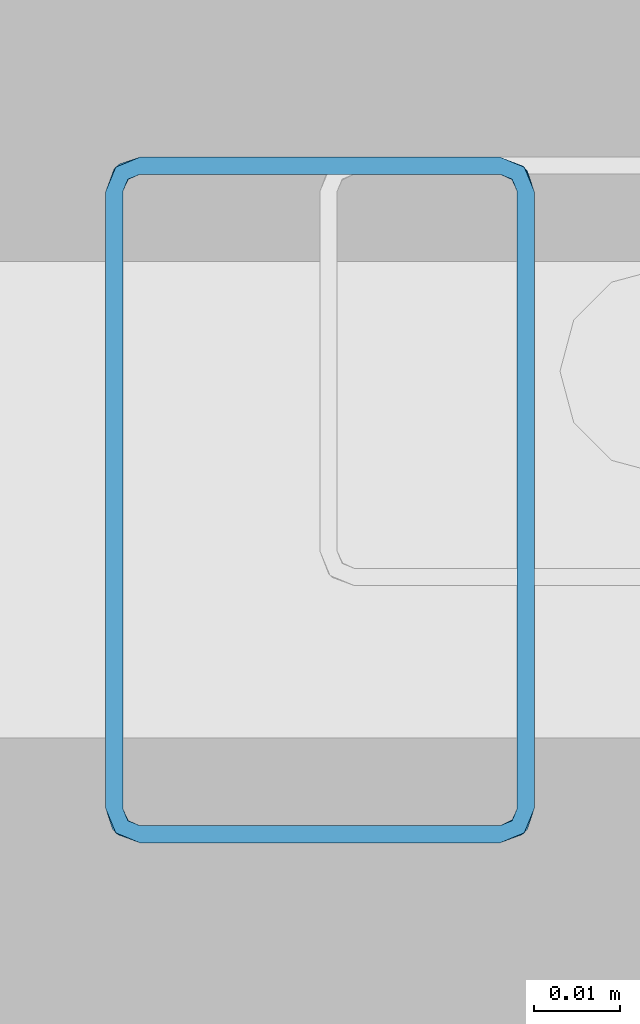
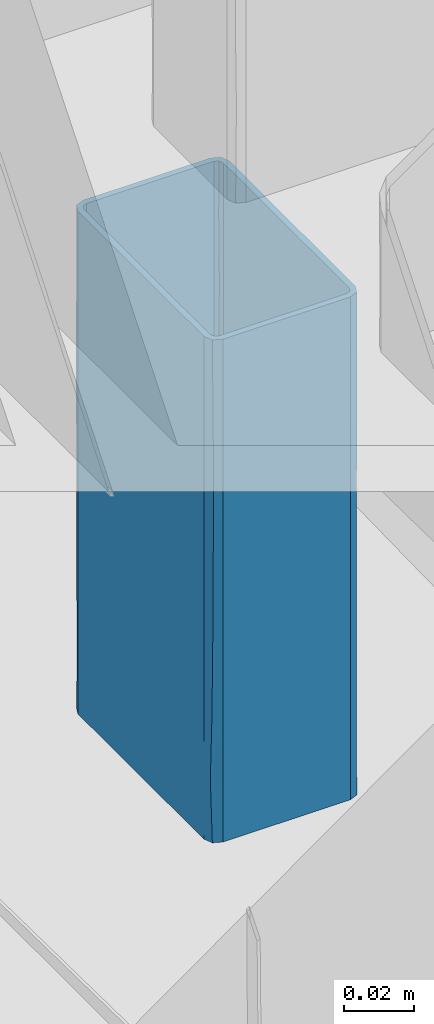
# One storey, part 145 of 186: 1 beam.
"""IFC4X3_ADD2 building model written with IfcOpenShell, lengths in millimetres."""

from ifc_helpers import new_model, si_unit, direction, frame, origin_with_axes, place, context, subcontext, project, spatial, polygons, element, save


model = new_model("IFC4X3_ADD2")

# Units and contexts
model_context = context("Model", 3, precision=1e-05, world=origin_with_axes(), true_north=direction((0.0, 1.0)))
body_context = subcontext(model_context, "Body", "Model", "MODEL_VIEW")
ifc_project = project(units=[si_unit("LENGTHUNIT", "METRE", prefix="MILLI"), si_unit("AREAUNIT", "SQUARE_METRE"), si_unit("VOLUMEUNIT", "CUBIC_METRE"), si_unit("PLANEANGLEUNIT", "RADIAN"), si_unit("TIMEUNIT", "SECOND"), si_unit("MASSUNIT", "GRAM")], contexts=[model_context])

# Site, building, storey
site_placement = place(None, origin_with_axes())
site = spatial("IfcSite", under=ifc_project, at=site_placement, Name="Site", CompositionType="ELEMENT")
building_placement = place(site_placement, origin_with_axes())
building = spatial("IfcBuilding", under=site, at=building_placement, Name="IFC Building Story")
storey_placement = place(building_placement, frame((0.0, 0.0, 4370.0), z_axis=(0.0, 0.0, 1.0), x_axis=(1.0, 0.0, 0.0)))
storey = spatial("IfcBuildingStorey", under=building, at=storey_placement, Name="ETAGE 10 (1)", Elevation=4370.0)

# Beam
beam_placement = place(storey_placement, frame((0.0, 0.0, -4370.0), z_axis=(0.0, 0.0, 1.0), x_axis=(1.0, 0.0, 0.0)))
element("IfcBeam", 1, at=beam_placement, inside=storey, Name="PS9", ObjectType="K50*80*2", context=body_context, shape_type="Tessellation", body=[
    polygons([(40033.18902040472, -14301.01914260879, 7528.810290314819), (40031.18902040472, -14301.01914260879, 7528.810290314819), (40033.77480684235, -14302.43335617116, 7528.810290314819), (40031.18902040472, -14229.01914260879, 7528.810290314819), (40033.18902040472, -14229.01914260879, 7528.810290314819), (40033.77480684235, -14227.60492904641, 7528.810290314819), (40032.36059327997, -14226.19071548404, 7528.810290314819), (40035.18902040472, -14225.01914260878, 7528.810290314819), (40035.18902040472, -14227.01914260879, 7528.810290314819), (40077.18902040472, -14227.01914260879, 7528.810290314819), (40077.18902040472, -14225.01914260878, 7528.810290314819), (40078.60323396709, -14227.60492904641, 7528.810290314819), (40080.01744752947, -14226.19071548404, 7528.810290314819), (40081.18902040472, -14229.01914260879, 7528.810290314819), (40079.18902040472, -14229.01914260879, 7528.810290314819), (40079.18902040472, -14301.01914260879, 7528.810290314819), (40081.18902040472, -14301.01914260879, 7528.810290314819), (40078.60323396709, -14302.43335617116, 7528.810290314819), (40080.01744752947, -14303.84756973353, 7528.810290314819), (40077.18902040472, -14305.01914260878, 7528.810290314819), (40077.18902040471, -14303.01914260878, 7528.810290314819), (40035.18902040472, -14305.01914260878, 7528.810290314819), (40035.18902040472, -14303.01914260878, 7528.810290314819), (40032.36059327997, -14303.84756973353, 7528.810290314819), (40079.18902040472, -14301.01914260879, 7353.41029031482), (40081.18902040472, -14301.01914260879, 7353.41029031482), (40078.60323396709, -14302.43335617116, 7353.41029031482), (40081.18902040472, -14229.01914260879, 7353.41029031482), (40079.18902040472, -14229.01914260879, 7353.41029031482), (40078.60323396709, -14227.60492904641, 7353.41029031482), (40080.01744752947, -14226.19071548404, 7353.41029031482), (40077.18902040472, -14225.01914260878, 7353.41029031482), (40077.18902040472, -14227.01914260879, 7353.41029031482), (40035.18902040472, -14227.01914260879, 7353.41029031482), (40035.18902040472, -14225.01914260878, 7353.41029031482), (40033.77480684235, -14227.60492904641, 7353.41029031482), (40032.36059327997, -14226.19071548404, 7353.41029031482), (40031.18902040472, -14229.01914260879, 7353.41029031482), (40033.18902040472, -14229.01914260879, 7353.41029031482), (40033.18902040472, -14301.01914260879, 7353.41029031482), (40031.18902040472, -14301.01914260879, 7353.41029031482), (40033.77480684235, -14302.43335617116, 7353.41029031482), (40032.36059327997, -14303.84756973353, 7353.41029031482), (40035.18902040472, -14305.01914260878, 7353.41029031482), (40035.18902040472, -14303.01914260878, 7353.41029031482), (40077.18902040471, -14305.01914260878, 7353.41029031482), (40077.18902040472, -14303.01914260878, 7353.41029031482), (40080.01744752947, -14303.84756973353, 7353.41029031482), (40031.18902040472, -14229.01914260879, 7511.35176800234), (40031.18902040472, -14229.01914260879, 7484.96029031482), (40031.18902040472, -14229.01914260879, 7463.03529031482), (40031.18902040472, -14229.01914260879, 7441.110290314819), (40031.18902040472, -14229.01914260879, 7419.185290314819), (40031.18902040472, -14229.01914260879, 7397.26029031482), (40031.18902040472, -14229.01914260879, 7370.868812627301), (40031.18902040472, -14301.01914260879, 7388.327335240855), (40031.18902040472, -14301.01914260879, 7406.19324419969), (40031.18902040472, -14301.01914260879, 7432.584721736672), (40031.18902040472, -14301.01914260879, 7458.976199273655), (40031.18902040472, -14301.01914260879, 7476.434721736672), (40031.18902040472, -14301.01914260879, 7493.89324419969), (40032.27330903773, -14303.75750475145, 7397.260292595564), (40035.18902040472, -14305.01914260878, 7419.185290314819), (40032.49036666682, -14303.97164459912, 7430.147792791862), (40035.18902040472, -14305.01914260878, 7397.26029031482), (40031.96517637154, -14303.38701710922, 7375.256384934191), (40035.18902040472, -14305.01914260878, 7370.868813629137), (40032.5391279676, -14304.01548539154, 7498.156029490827), (40035.18902040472, -14305.01914260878, 7441.110290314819), (40035.18902040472, -14305.01914260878, 7511.351767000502), (40032.55305022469, -14304.02774048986, 7454.738124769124), (40032.60615070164, -14304.07344843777, 7476.448793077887), (40035.18902040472, -14305.01914260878, 7484.96029031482), (40035.18902040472, -14305.01914260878, 7463.03529031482), (40077.18902040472, -14305.01914260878, 7370.86881305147), (40077.18902040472, -14305.01914260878, 7397.26029031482), (40077.18902040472, -14305.01914260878, 7419.185290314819), (40077.18902040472, -14305.01914260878, 7441.110290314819), (40077.18902040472, -14305.01914260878, 7463.03529031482), (40077.18902040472, -14305.01914260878, 7484.96029031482), (40077.18902040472, -14305.01914260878, 7511.35176757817), (40081.18902040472, -14301.01914260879, 7388.327335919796), (40079.83891276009, -14304.01548546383, 7384.064555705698), (40080.10473176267, -14303.75750476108, 7484.960291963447), (40080.41286439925, -14303.38701716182, 7506.964197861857), (40079.88767416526, -14303.97164457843, 7452.07279271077), (40081.18902040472, -14301.01914260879, 7476.027335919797), (40081.18902040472, -14301.01914260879, 7493.893244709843), (40079.8249906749, -14304.02774041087, 7427.482462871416), (40081.18902040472, -14301.01914260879, 7423.244381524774), (40081.18902040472, -14301.01914260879, 7449.635858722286), (40081.18902040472, -14301.01914260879, 7405.785858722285), (40079.77189039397, -14304.07344819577, 7405.771793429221), (40081.18902040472, -14229.01914260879, 7388.327335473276), (40081.18902040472, -14229.01914260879, 7414.718812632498), (40081.18902040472, -14229.01914260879, 7441.110290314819), (40081.18902040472, -14229.01914260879, 7463.03529031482), (40081.18902040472, -14229.01914260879, 7484.96029031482), (40081.18902040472, -14229.01914260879, 7511.351767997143), (40080.18536316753, -14226.36925014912, 7498.156030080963), (40080.04053304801, -14226.21399098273, 7471.566908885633), (40077.18902040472, -14225.01914260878, 7493.893244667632), (40080.01744765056, -14226.19071560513, 7397.260294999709), (40080.40257989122, -14226.63732913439, 7375.335293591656), (40077.18902040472, -14225.01914260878, 7388.327335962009), (40077.18902040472, -14225.01914260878, 7406.19324394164), (40079.84319494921, -14226.02659227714, 7445.780463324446), (40079.9358619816, -14226.11141818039, 7421.625940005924), (40077.18902040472, -14225.01914260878, 7432.584720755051), (40077.18902040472, -14225.01914260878, 7458.976197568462), (40035.18902040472, -14225.01914260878, 7388.327335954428), (40035.18902040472, -14225.01914260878, 7406.193244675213), (40035.18902040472, -14225.01914260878, 7432.584721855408), (40035.18902040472, -14225.01914260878, 7458.976199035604), (40035.18902040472, -14225.01914260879, 7476.434721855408), (40035.18902040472, -14225.01914260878, 7493.893244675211), (40032.45065829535, -14226.10343121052, 7397.260293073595), (40032.23651842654, -14226.32048885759, 7430.147793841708), (40032.82114591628, -14225.79529856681, 7375.256385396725), (40032.19267763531, -14226.36925015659, 7498.156029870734), (40032.18042254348, -14226.38317240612, 7454.738125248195), (40032.13471460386, -14226.43627287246, 7476.448793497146), (40035.18902040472, -14227.01914260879, 7479.430131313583), (40033.77480688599, -14227.60492900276, 7485.602651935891), (40033.77480687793, -14227.60492901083, 7472.397284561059), (40033.77000533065, -14227.60974691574, 7384.994628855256), (40033.6935629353, -14227.69113396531, 7371.927851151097), (40035.18902040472, -14227.01914260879, 7372.570210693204), (40033.18902040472, -14229.01914260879, 7419.185290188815), (40033.18902040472, -14229.01914260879, 7408.222790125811), (40033.72649008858, -14227.65495601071, 7413.704042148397), (40033.73642430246, -14227.64438278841, 7448.567533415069), (40033.18902040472, -14229.01914260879, 7441.110290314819), (40033.88525638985, -14227.50250178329, 7437.383846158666), (40035.18902040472, -14227.01914260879, 7454.740051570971), (40033.84806014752, -14227.53528763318, 7460.412453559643), (40035.18902040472, -14227.01914260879, 7391.730131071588), (40033.18902040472, -14229.01914260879, 7365.755329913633), (40033.18902040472, -14229.01914260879, 7516.465250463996), (40033.18902040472, -14229.01914260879, 7491.77517126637), (40033.18902040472, -14229.01914260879, 7479.430131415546), (40035.18902040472, -14227.01914260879, 7491.775170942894), (40033.82280305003, -14227.5585091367, 7497.947691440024), (40033.83051627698, -14227.55133249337, 7396.71874799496), (40033.18902040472, -14229.01914260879, 7397.26029031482), (40035.18902040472, -14227.01914260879, 7516.465250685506), (40033.77480686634, -14227.60492902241, 7510.292730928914), (40035.18902040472, -14227.01914260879, 7504.120210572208), (40033.18902040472, -14229.01914260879, 7504.120210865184), (40033.18902040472, -14229.01914260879, 7378.100369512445), (40033.18902040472, -14229.01914260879, 7460.270210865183), (40035.18902040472, -14227.01914260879, 7467.085091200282), (40033.69769861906, -14227.68649136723, 7426.261011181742), (40035.18902040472, -14227.01914260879, 7410.890051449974), (40035.18902040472, -14227.01914260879, 7430.049971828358), (40033.18902040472, -14229.01914260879, 7430.147790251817), (40035.18902040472, -14227.01914260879, 7442.395011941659), (40077.18902040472, -14227.01914260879, 7365.755330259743), (40077.18902040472, -14227.01914260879, 7378.100369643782), (40077.18902040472, -14227.01914260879, 7397.260290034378), (40077.18902040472, -14227.01914260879, 7408.222789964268), (40077.18902040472, -14227.01914260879, 7419.185289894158), (40077.18902040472, -14227.01914260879, 7430.147789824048), (40077.18902040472, -14227.01914260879, 7441.110290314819), (40077.18902040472, -14227.01914260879, 7452.072790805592), (40077.18902040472, -14227.01914260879, 7463.035290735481), (40077.18902040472, -14227.01914260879, 7473.997790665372), (40077.18902040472, -14227.01914260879, 7484.960290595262), (40077.18902040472, -14227.01914260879, 7504.120210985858), (40077.18902040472, -14227.01914260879, 7516.465250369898), (40078.70566120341, -14227.71537856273, 7444.836737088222), (40078.56378019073, -14227.56654647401, 7433.653049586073), (40079.18902040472, -14229.01914260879, 7439.825568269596), (40078.59841610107, -14227.60012753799, 7497.225954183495), (40078.6568304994, -14227.66063845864, 7485.501835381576), (40079.18902040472, -14229.01914260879, 7490.490449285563), (40078.5170290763, -14227.52368516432, 7510.292731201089), (40079.18902040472, -14229.01914260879, 7509.650370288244), (40078.60323396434, -14227.60492904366, 7385.133218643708), (40078.60323395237, -14227.60492903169, 7371.927850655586), (40079.18902040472, -14229.01914260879, 7378.100369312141), (40079.18902040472, -14229.01914260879, 7365.755330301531), (40079.18902040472, -14229.01914260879, 7427.480529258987), (40078.66431878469, -14227.66877425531, 7421.638538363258), (40078.55320697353, -14227.55661226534, 7468.5165412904), (40078.52167162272, -14227.52782080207, 7455.95957216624), (40079.18902040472, -14229.01914260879, 7390.445409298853), (40078.53490426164, -14227.53975197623, 7402.741541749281), (40079.18902040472, -14229.01914260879, 7452.170608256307), (40079.18902040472, -14229.01914260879, 7471.330528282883), (40079.18902040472, -14229.01914260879, 7402.790449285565), (40079.18902040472, -14229.01914260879, 7415.135489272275), (40079.18902040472, -14301.01914260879, 7365.755329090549), (40079.18902040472, -14301.01914260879, 7375.335290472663), (40079.18902040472, -14301.01914260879, 7386.297790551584), (40079.18902040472, -14301.01914260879, 7397.260290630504), (40079.18902040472, -14301.01914260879, 7408.222790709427), (40079.18902040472, -14301.01914260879, 7419.185290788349), (40079.18902040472, -14301.01914260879, 7430.147790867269), (40079.18902040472, -14301.01914260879, 7441.110290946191), (40079.18902040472, -14301.01914260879, 7452.072791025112), (40079.18902040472, -14301.01914260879, 7463.035291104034), (40079.18902040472, -14301.01914260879, 7473.997791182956), (40079.18902040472, -14301.01914260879, 7484.960291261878), (40079.18902040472, -14301.01914260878, 7504.120211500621), (40079.18902040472, -14301.01914260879, 7516.465250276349), (40078.69729622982, -14302.33257476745, 7403.991095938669), (40078.66464788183, -14302.36915133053, 7391.779041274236), (40078.61357853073, -14302.42293538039, 7446.851607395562), (40078.51381434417, -14302.51744865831, 7459.400227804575), (40077.18902040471, -14303.01914260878, 7378.100369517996), (40078.7692654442, -14302.24504049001, 7381.118364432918), (40078.60323397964, -14302.43335615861, 7370.545310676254), (40078.68447785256, -14302.34715127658, 7510.292731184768), (40077.18902040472, -14303.01914260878, 7509.650369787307), (40077.18902040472, -14303.01914260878, 7390.445409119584), (40077.18902040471, -14303.01914260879, 7402.790448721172), (40078.52662301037, -14302.50602500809, 7421.308009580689), (40077.18902040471, -14303.01914260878, 7365.755329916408), (40078.60803548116, -14302.42853829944, 7497.225954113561), (40078.59808333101, -14302.43848811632, 7434.380258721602), (40077.18902040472, -14303.01914260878, 7427.480527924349), (40077.18902040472, -14303.01914260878, 7415.135488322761), (40077.18902040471, -14303.01914260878, 7439.825568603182), (40077.18902040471, -14303.01914260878, 7452.17060820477), (40077.18902040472, -14303.01914260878, 7490.490449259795), (40078.52015993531, -14302.51181388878, 7479.47904107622), (40077.18902040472, -14303.01914260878, 7471.330528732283), (40035.18902040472, -14303.01914260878, 7365.755330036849), (40035.18902040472, -14303.01914260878, 7378.100369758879), (40035.18902040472, -14303.01914260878, 7390.445409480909), (40035.18902040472, -14303.01914260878, 7402.790449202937), (40035.18902040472, -14303.01914260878, 7415.135488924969), (40035.18902040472, -14303.01914260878, 7427.480528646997), (40035.18902040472, -14303.01914260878, 7439.825568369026), (40035.18902040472, -14303.01914260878, 7452.170608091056), (40035.18902040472, -14303.01914260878, 7471.330528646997), (40035.18902040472, -14303.01914260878, 7490.490449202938), (40035.18902040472, -14303.01914260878, 7509.650369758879), (40033.77000531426, -14302.42853828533, 7497.225954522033), (40033.69356294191, -14302.34715125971, 7510.292731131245), (40033.8480600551, -14302.50299750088, 7421.808131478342), (40033.73642420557, -14302.39390232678, 7433.653050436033), (40033.77480688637, -14302.4333562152, 7371.927853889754), (40033.77480690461, -14302.43335623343, 7385.133219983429), (40033.18902040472, -14301.01914260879, 7378.100370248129), (40033.18902040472, -14301.01914260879, 7463.035290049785), (40033.18902040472, -14301.01914260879, 7473.997790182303), (40033.72649001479, -14302.38332912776, 7468.516541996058), (40033.18902040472, -14301.01914260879, 7516.465250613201), (40033.18902040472, -14301.01914260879, 7365.755330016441), (40033.8852562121, -14302.53578328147, 7444.83673813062), (40033.83051621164, -14302.48695266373, 7485.501836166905), (40033.18902040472, -14301.01914260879, 7484.96029031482), (40033.18902040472, -14301.01914260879, 7390.445409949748), (40033.7130589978, -14302.36878623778, 7397.096792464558), (40033.18902040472, -14301.01914260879, 7504.120210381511), (40033.76931803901, -14302.42784598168, 7409.063177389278), (40033.69769857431, -14302.35179380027, 7455.959573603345), (40033.18902040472, -14301.01914260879, 7452.072790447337), (40033.18902040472, -14301.01914260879, 7441.110290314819), (40033.18902040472, -14301.01914260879, 7421.950369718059), (40033.18902040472, -14301.01914260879, 7402.790449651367)], [[[1, 2, 3]], [[2, 1, 4]], [[5, 4, 1]], [[6, 4, 5]], [[7, 4, 6]], [[6, 8, 7]], [[6, 9, 8]], [[8, 9, 10]], [[10, 11, 8]], [[10, 12, 11]], [[11, 12, 13]], [[14, 13, 12]], [[14, 12, 15]], [[14, 15, 16]], [[16, 17, 14]], [[18, 17, 16]], [[17, 18, 19]], [[18, 20, 19]], [[21, 20, 18]], [[20, 21, 22]], [[23, 22, 21]], [[3, 22, 23]], [[22, 3, 24]], [[3, 2, 24]], [[25, 26, 27]], [[26, 25, 28]], [[29, 28, 25]], [[30, 28, 29]], [[31, 28, 30]], [[30, 32, 31]], [[30, 33, 32]], [[32, 33, 34]], [[34, 35, 32]], [[34, 36, 35]], [[35, 36, 37]], [[38, 37, 36]], [[38, 36, 39]], [[38, 39, 40]], [[40, 41, 38]], [[42, 41, 40]], [[41, 42, 43]], [[42, 44, 43]], [[45, 44, 42]], [[44, 45, 46]], [[47, 46, 45]], [[27, 46, 47]], [[46, 27, 48]], [[27, 26, 48]], [[55, 38, 41]], [[56, 57, 54]], [[54, 55, 41]], [[54, 41, 56]], [[57, 53, 54]], [[57, 58, 52]], [[57, 52, 53]], [[58, 59, 51]], [[58, 51, 52]], [[59, 60, 50]], [[59, 50, 51]], [[61, 2, 49]], [[61, 49, 50]], [[50, 60, 61]], [[2, 4, 49]], [[62, 63, 64]], [[65, 66, 67]], [[2, 61, 68]], [[64, 63, 69]], [[70, 22, 24]], [[43, 44, 67]], [[62, 56, 66]], [[71, 59, 58]], [[57, 56, 62]], [[62, 66, 65]], [[24, 2, 68]], [[60, 59, 72, 61]], [[41, 43, 66]], [[58, 64, 71]], [[64, 57, 62]], [[73, 70, 68]], [[62, 65, 63]], [[64, 69, 71]], [[64, 58, 57]], [[71, 69, 74]], [[41, 66, 56]], [[67, 66, 43]], [[24, 68, 70]], [[71, 72, 59]], [[68, 72, 73]], [[72, 68, 61]], [[72, 74, 73]], [[74, 72, 71]], [[67, 44, 46]], [[67, 46, 75]], [[75, 76, 65]], [[75, 65, 67]], [[76, 77, 63]], [[76, 63, 65]], [[77, 78, 69]], [[77, 69, 63]], [[78, 79, 74]], [[78, 74, 69]], [[79, 80, 73]], [[79, 73, 74]], [[80, 81, 70]], [[80, 70, 73]], [[81, 20, 22]], [[81, 22, 70]], [[26, 82, 83]], [[84, 85, 80]], [[86, 84, 79]], [[87, 88, 84]], [[86, 79, 78]], [[80, 85, 81]], [[84, 88, 85]], [[48, 26, 83]], [[84, 80, 79]], [[89, 90, 91]], [[92, 90, 93, 82]], [[17, 19, 85]], [[91, 86, 89]], [[75, 83, 76]], [[86, 87, 84]], [[75, 46, 48]], [[19, 20, 81]], [[86, 78, 89]], [[86, 91, 87]], [[89, 78, 77]], [[17, 85, 88]], [[81, 85, 19]], [[48, 83, 75]], [[89, 93, 90]], [[83, 93, 76]], [[93, 83, 82]], [[93, 77, 76]], [[77, 93, 89]], [[82, 26, 28]], [[82, 28, 94]], [[94, 95, 92]], [[94, 92, 82]], [[95, 90, 92]], [[95, 96, 91]], [[95, 91, 90]], [[97, 98, 87]], [[87, 91, 96]], [[87, 96, 97]], [[98, 88, 87]], [[99, 14, 17]], [[17, 88, 98]], [[17, 98, 99]], [[99, 98, 100]], [[101, 102, 100]], [[103, 94, 104]], [[11, 13, 100]], [[31, 104, 28]], [[103, 95, 94]], [[105, 106, 103]], [[97, 107, 101]], [[13, 99, 100]], [[32, 105, 104]], [[108, 107, 96]], [[103, 104, 105]], [[108, 106, 109]], [[107, 108, 109]], [[110, 107, 109]], [[13, 14, 99]], [[28, 104, 94]], [[104, 31, 32]], [[101, 107, 110]], [[108, 96, 95]], [[102, 101, 110]], [[97, 96, 107]], [[95, 103, 108]], [[106, 108, 103]], [[101, 100, 98]], [[100, 102, 11]], [[101, 98, 97]], [[105, 32, 35]], [[105, 35, 111]], [[111, 112, 106]], [[111, 106, 105]], [[112, 113, 109]], [[112, 109, 106]], [[113, 114, 110]], [[113, 110, 109]], [[115, 116, 102]], [[102, 110, 114]], [[102, 114, 115]], [[116, 8, 11]], [[116, 11, 102]], [[117, 53, 118]], [[54, 119, 55]], [[8, 116, 120]], [[118, 53, 52]], [[49, 4, 7]], [[37, 38, 55]], [[117, 111, 119]], [[121, 114, 113]], [[112, 111, 117]], [[117, 119, 54]], [[7, 8, 120]], [[115, 114, 122, 116]], [[35, 37, 119]], [[113, 118, 121]], [[118, 112, 117]], [[50, 49, 120]], [[117, 54, 53]], [[118, 52, 121]], [[118, 113, 112]], [[121, 52, 51]], [[35, 119, 111]], [[55, 119, 37]], [[7, 120, 49]], [[121, 122, 114]], [[120, 122, 50]], [[122, 120, 116]], [[122, 51, 50]], [[51, 122, 121]], [[123, 124, 125]], [[126, 127, 128]], [[129, 130, 131]], [[132, 133, 134]], [[132, 135, 136]], [[126, 128, 137]], [[138, 39, 36]], [[6, 5, 139]], [[36, 127, 138]], [[125, 124, 140, 141]], [[142, 143, 124]], [[144, 145, 126]], [[142, 124, 123]], [[146, 147, 148]], [[140, 143, 149]], [[127, 36, 34]], [[138, 127, 150]], [[146, 9, 6]], [[147, 6, 139]], [[6, 147, 146]], [[143, 147, 149]], [[143, 142, 148]], [[149, 147, 139]], [[132, 151, 133]], [[152, 123, 125]], [[125, 141, 151]], [[126, 150, 127]], [[34, 128, 127]], [[126, 145, 150]], [[153, 131, 154]], [[124, 143, 140]], [[147, 143, 148]], [[130, 145, 144]], [[135, 152, 136]], [[144, 126, 137]], [[155, 153, 154]], [[144, 137, 154]], [[153, 129, 131]], [[144, 131, 130]], [[154, 131, 144]], [[156, 129, 153]], [[132, 134, 157]], [[135, 132, 157]], [[155, 134, 153]], [[151, 132, 136]], [[136, 125, 151]], [[125, 136, 152]], [[157, 134, 155]], [[133, 156, 134]], [[156, 153, 134]], [[158, 159, 128]], [[128, 34, 33]], [[128, 33, 158]], [[159, 160, 137]], [[159, 137, 128]], [[160, 161, 154]], [[160, 154, 137]], [[162, 163, 155]], [[162, 155, 154]], [[154, 161, 162]], [[163, 164, 157]], [[163, 157, 155]], [[164, 165, 135]], [[164, 135, 157]], [[165, 166, 152]], [[165, 152, 135]], [[166, 167, 123]], [[166, 123, 152]], [[167, 168, 142]], [[167, 142, 123]], [[168, 169, 148]], [[168, 148, 142]], [[169, 170, 146]], [[169, 146, 148]], [[170, 10, 9]], [[170, 9, 146]], [[171, 172, 173]], [[174, 175, 176]], [[158, 33, 30]], [[12, 10, 170]], [[177, 15, 12]], [[178, 15, 177]], [[179, 180, 181]], [[182, 180, 30]], [[183, 172, 184]], [[169, 174, 177]], [[185, 166, 186]], [[169, 177, 170]], [[179, 187, 188]], [[29, 182, 30]], [[179, 181, 187]], [[159, 180, 179]], [[182, 181, 180]], [[177, 174, 178]], [[30, 180, 158]], [[180, 159, 158]], [[179, 160, 159]], [[179, 188, 160]], [[173, 189, 171]], [[170, 177, 12]], [[176, 178, 174]], [[168, 175, 174]], [[174, 169, 168]], [[175, 190, 176]], [[185, 186, 190]], [[190, 175, 185]], [[168, 167, 175]], [[167, 185, 175]], [[185, 167, 166]], [[189, 190, 186]], [[172, 183, 173]], [[186, 165, 171]], [[161, 160, 188]], [[171, 165, 164]], [[172, 163, 184]], [[191, 192, 188, 187]], [[162, 161, 184, 163]], [[184, 188, 192]], [[161, 188, 184]], [[192, 183, 184]], [[172, 171, 164]], [[186, 166, 165]], [[186, 171, 189]], [[172, 164, 163]], [[182, 29, 25]], [[182, 25, 193]], [[193, 194, 181]], [[193, 181, 182]], [[194, 195, 187]], [[194, 187, 181]], [[196, 197, 191]], [[191, 187, 195]], [[191, 195, 196]], [[197, 198, 192]], [[197, 192, 191]], [[198, 199, 183]], [[198, 183, 192]], [[199, 200, 173]], [[199, 173, 183]], [[200, 201, 189]], [[200, 189, 173]], [[202, 203, 190]], [[190, 189, 201]], [[190, 201, 202]], [[203, 204, 176]], [[203, 176, 190]], [[204, 205, 178]], [[204, 178, 176]], [[206, 16, 15]], [[206, 15, 178]], [[178, 205, 206]], [[207, 196, 208]], [[201, 209, 210]], [[211, 212, 213]], [[214, 21, 18]], [[215, 21, 214]], [[216, 217, 208]], [[207, 218, 197]], [[27, 219, 213]], [[205, 220, 214]], [[200, 221, 209]], [[205, 214, 206]], [[212, 195, 194]], [[193, 27, 213, 194]], [[193, 25, 27]], [[18, 16, 206]], [[214, 220, 215]], [[27, 47, 219]], [[213, 219, 211]], [[195, 212, 208]], [[195, 208, 196]], [[217, 207, 208]], [[211, 216, 212]], [[222, 221, 218]], [[198, 197, 218, 199]], [[223, 218, 207]], [[222, 218, 223]], [[207, 217, 223]], [[221, 199, 218]], [[224, 225, 209]], [[221, 224, 209]], [[206, 214, 18]], [[226, 215, 220]], [[226, 220, 227]], [[220, 205, 204]], [[202, 201, 210, 203]], [[203, 227, 204]], [[221, 222, 224]], [[227, 210, 228]], [[210, 209, 225]], [[210, 225, 228]], [[210, 227, 203]], [[204, 227, 220]], [[227, 228, 226]], [[216, 208, 212]], [[213, 212, 194]], [[197, 196, 207]], [[201, 200, 209]], [[221, 200, 199]], [[219, 47, 45]], [[219, 45, 229]], [[229, 230, 211]], [[229, 211, 219]], [[230, 231, 216]], [[230, 216, 211]], [[231, 232, 217]], [[231, 217, 216]], [[232, 233, 223]], [[232, 223, 217]], [[233, 234, 222]], [[233, 222, 223]], [[234, 235, 224]], [[234, 224, 222]], [[235, 236, 225]], [[235, 225, 224]], [[236, 237, 228]], [[236, 228, 225]], [[237, 238, 226]], [[237, 226, 228]], [[238, 239, 215]], [[238, 215, 226]], [[239, 23, 21]], [[239, 21, 215]], [[240, 241, 239]], [[242, 243, 234]], [[230, 229, 244]], [[245, 244, 246]], [[234, 243, 235]], [[247, 248, 249]], [[250, 1, 3]], [[40, 251, 42]], [[239, 238, 240]], [[252, 235, 243]], [[3, 241, 250]], [[253, 254, 240]], [[245, 255, 256]], [[42, 244, 229]], [[241, 3, 23]], [[250, 241, 257]], [[229, 45, 42]], [[251, 246, 244]], [[42, 251, 244]], [[230, 244, 245]], [[231, 230, 245]], [[256, 258, 232]], [[240, 257, 241]], [[23, 239, 241]], [[240, 254, 257]], [[259, 249, 237]], [[248, 254, 253]], [[232, 231, 256]], [[245, 246, 255]], [[253, 240, 238]], [[236, 259, 237]], [[253, 238, 237]], [[259, 247, 249]], [[253, 249, 248]], [[237, 249, 253]], [[260, 247, 259]], [[261, 252, 243]], [[243, 262, 261]], [[236, 252, 259]], [[242, 258, 262]], [[262, 243, 242]], [[263, 262, 258]], [[242, 233, 258]], [[233, 232, 258]], [[242, 234, 233]], [[256, 263, 258]], [[263, 256, 255]], [[231, 245, 256]], [[235, 252, 236]], [[261, 260, 252]], [[260, 259, 252]], [[251, 40, 39]], [[251, 39, 138]], [[138, 150, 246]], [[138, 246, 251]], [[150, 145, 255]], [[150, 255, 246]], [[145, 130, 263]], [[145, 263, 255]], [[130, 129, 262]], [[130, 262, 263]], [[156, 133, 261]], [[156, 261, 262]], [[262, 129, 156]], [[133, 151, 260]], [[133, 260, 261]], [[151, 247, 260]], [[151, 141, 248]], [[151, 248, 247]], [[141, 254, 248]], [[140, 149, 257]], [[140, 257, 254]], [[254, 141, 140]], [[149, 139, 250]], [[149, 250, 257]], [[139, 5, 1]], [[139, 1, 250]]]),
])

save(model, "model.ifc")
